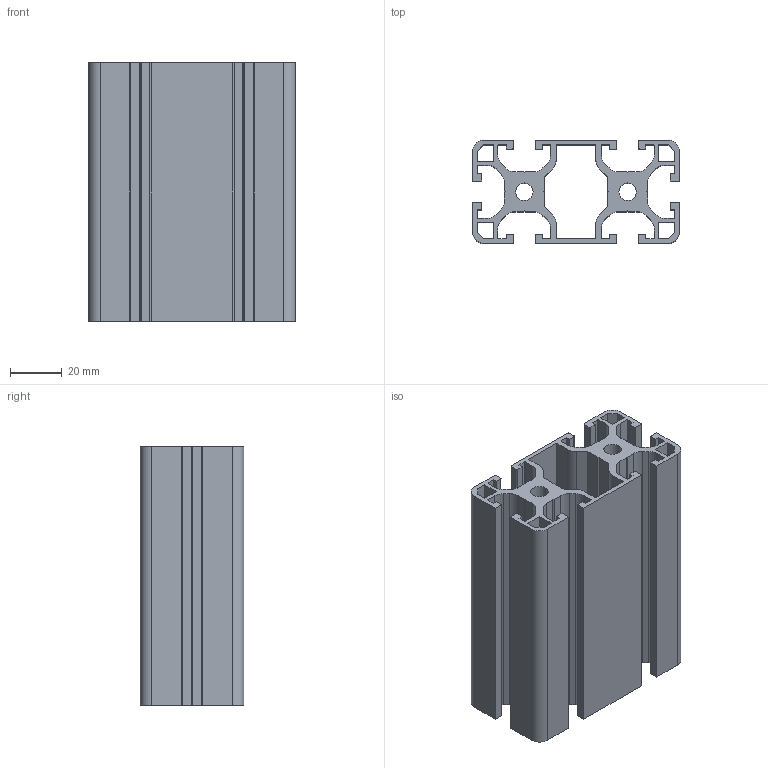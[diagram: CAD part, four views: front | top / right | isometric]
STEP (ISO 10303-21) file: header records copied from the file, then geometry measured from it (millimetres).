
FILE_DESCRIPTION (( 'STEP AP203' ), '1' );
FILE_NAME ('LIMA-P88040-SL.STEP', '2018-03-15T12:36:21', ( '' ), ( '' ), 'SwSTEP 2.0', 'SolidWorks 2013', '' );
FILE_SCHEMA (( 'CONFIG_CONTROL_DESIGN' ));
Length unit declared in the file: millimetre
Products named in the file (1): LIMA-P88040-SL
Bounding box: 80 x 40 x 100 mm (x, y, z)
Volume: 106074.4 mm3; surface area: 80061.8 mm2
Topology: 1 solids, 1 shells, 194 faces, 576 edges, 384 vertices
Faces by surface type: plane 146, cylinder 48
Entity records: 6561 total; most frequent: CARTESIAN_POINT 1155, ORIENTED_EDGE 1152, DIRECTION 1062, EDGE_CURVE 576, LINE 480, VECTOR 480, VERTEX_POINT 384, AXIS2_PLACEMENT_3D 291
